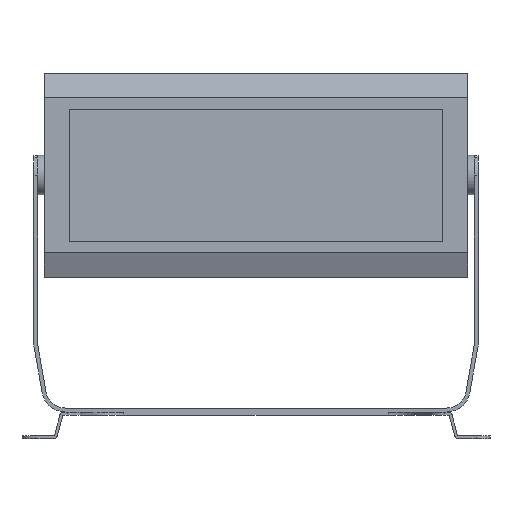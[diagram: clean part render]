
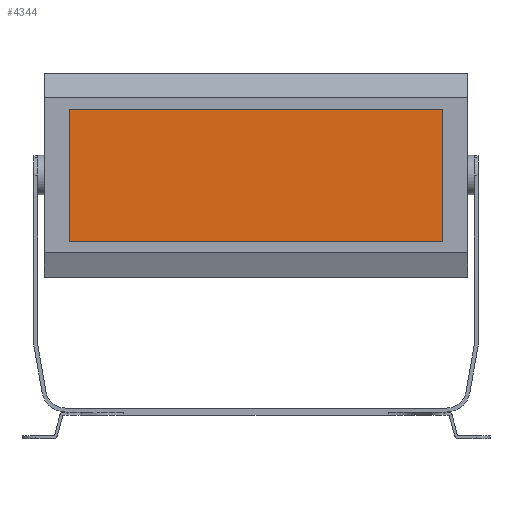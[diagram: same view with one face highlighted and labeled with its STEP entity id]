
A CAD part, left-side view. The second image highlights one B-rep face of the part: STEP entity #4344.
In plain terms, the highlighted planar face has unit normal (-1, 0, 0).
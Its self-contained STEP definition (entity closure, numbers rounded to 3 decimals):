
#467=LINE('',#7355,#823);
#469=LINE('',#7359,#825);
#471=LINE('',#7363,#827);
#473=LINE('',#7367,#829);
#823=VECTOR('',#6065,1000.);
#825=VECTOR('',#6069,1000.);
#827=VECTOR('',#6073,1000.);
#829=VECTOR('',#6077,1000.);
#1864=ORIENTED_EDGE('',*,*,#2562,.F.);
#1865=ORIENTED_EDGE('',*,*,#2568,.F.);
#1866=ORIENTED_EDGE('',*,*,#2566,.F.);
#1867=ORIENTED_EDGE('',*,*,#2564,.F.);
#2562=EDGE_CURVE('',#2995,#2996,#467,.T.);
#2564=EDGE_CURVE('',#2996,#2997,#469,.T.);
#2566=EDGE_CURVE('',#2997,#2998,#471,.T.);
#2568=EDGE_CURVE('',#2998,#2995,#473,.T.);
#2995=VERTEX_POINT('',#7354);
#2996=VERTEX_POINT('',#7356);
#2997=VERTEX_POINT('',#7360);
#2998=VERTEX_POINT('',#7364);
#3556=EDGE_LOOP('',(#1864,#1865,#1866,#1867));
#3928=FACE_BOUND('',#3556,.T.);
#4094=PLANE('',#4829);
#4344=ADVANCED_FACE('',(#3928),#4094,.F.);
#4829=AXIS2_PLACEMENT_3D('',#7368,#6078,#6079);
#6065=DIRECTION('',(0.,0.,1.));
#6069=DIRECTION('',(0.,-1.,0.));
#6073=DIRECTION('',(0.,0.,-1.));
#6077=DIRECTION('',(0.,1.,0.));
#6078=DIRECTION('',(1.,0.,0.));
#6079=DIRECTION('',(0.,0.,-1.));
#7354=CARTESIAN_POINT('',(-0.5,188.669,-66.696));
#7355=CARTESIAN_POINT('',(-0.5,188.669,-66.696));
#7356=CARTESIAN_POINT('',(-0.5,188.669,66.696));
#7359=CARTESIAN_POINT('',(-0.5,188.669,66.696));
#7360=CARTESIAN_POINT('',(-0.5,-188.669,66.696));
#7363=CARTESIAN_POINT('',(-0.5,-188.669,66.696));
#7364=CARTESIAN_POINT('',(-0.5,-188.669,-66.696));
#7367=CARTESIAN_POINT('',(-0.5,-188.669,-66.696));
#7368=CARTESIAN_POINT('',(-0.5,0.,0.));
